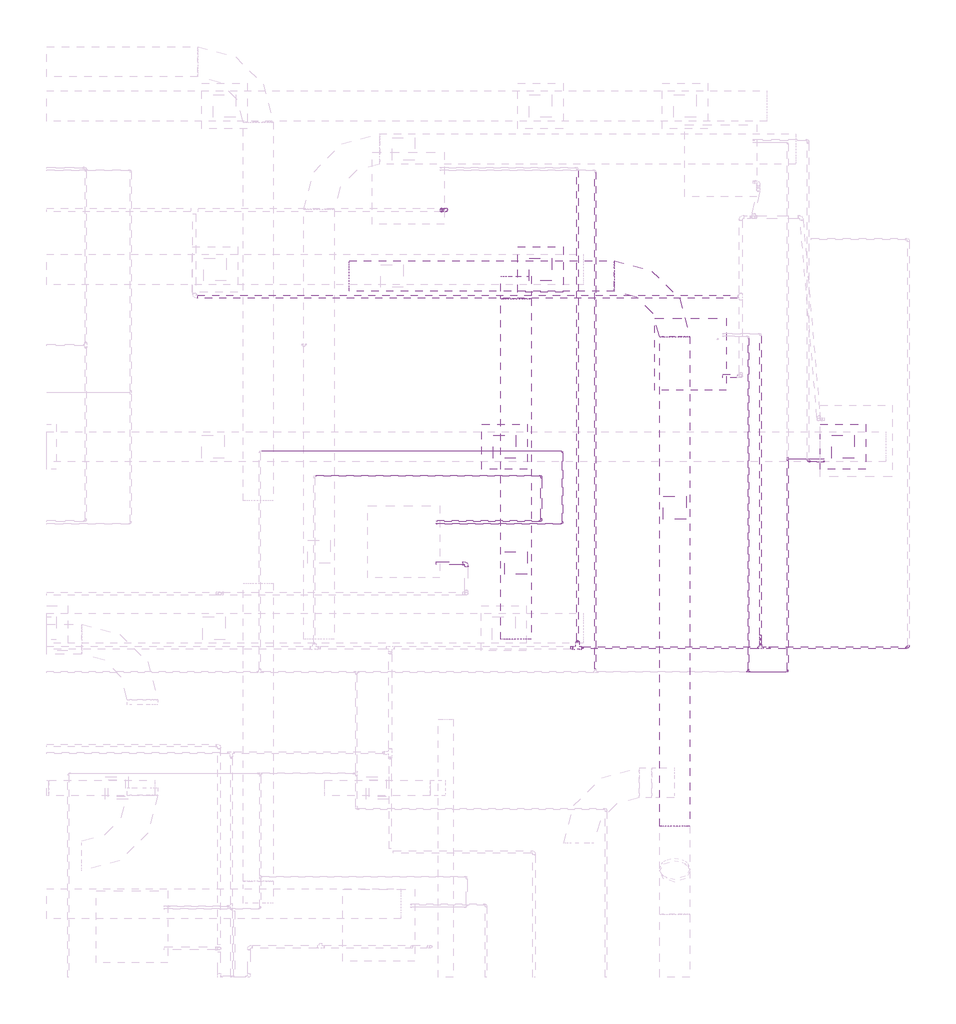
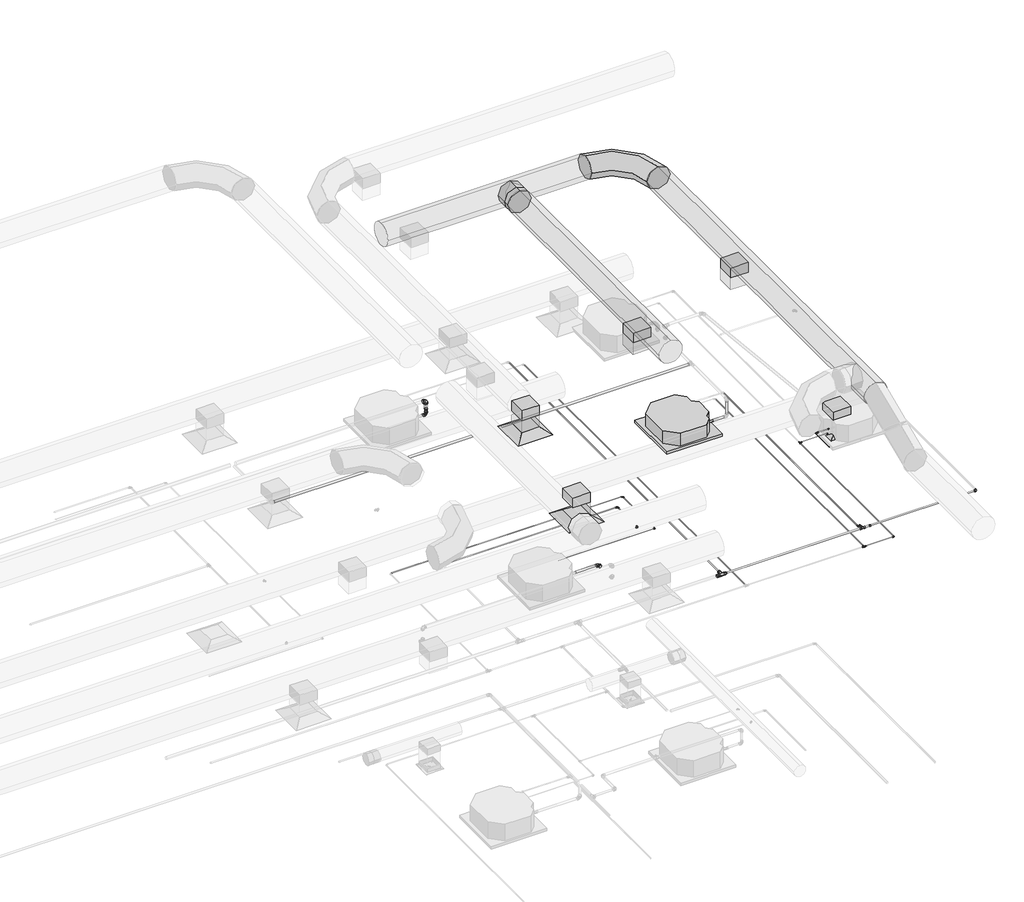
# One storey, part 20 of 21: 28 pipe fittings, 25 pipe segments, 8 duct segments, 7 duct fittings, 3 air terminals, 1 proxy.
"""IFC4 building model written with IfcOpenShell, lengths in millimetres."""

from ifc_helpers import new_model, si_unit, point, frame, frame_2d, origin, place, context, project, spatial, polyline, circle_curve, trimmed, segment, composite_curve, outline, extrude, transform, mapped, element, save
from components import air_terminal_ff221211, mechanical_equipment_77aa587a, duct_fitting_f399081e, duct_fitting_95c1ddea, duct_fitting_2_d_33ab650d, pipe_fitting_144f4440, pipe_fitting_1f557113, pipe_fitting_c8e70db0, pipe_fitting_182e23ec, pipe_fitting_39558790, pipe_fitting_5aefb692, pipe_fitting_2b321e5a, pipe_fitting_c3679463, pipe_fitting_ab0eaa7c, pipe_fitting_03ed5a55, pipe_fitting_c78fd4b3, pipe_fitting_c900cfc2, pipe_fitting_16c020f5, pipe_fitting_a9265b51, pipe_fitting_59d1f3e3, pipe_fitting_648138cd, pipe_fitting_725bd888, pipe_fitting_f1a24d16, pipe_fitting_ae0032d9, pipe_fitting_da16c1b3, pipe_fitting_3474c4ef, pipe_fitting_5a6d96d3

model = new_model("IFC4")

# Units and contexts
model_context = context("Model", 3, world=origin())
ifc_project = project(units=[si_unit("LENGTHUNIT", "METRE", prefix="MILLI")], contexts=[model_context])

# Site, building, storey
site = spatial("IfcSite", under=ifc_project)
building = spatial("IfcBuilding", under=site)
storey = spatial("IfcBuildingStorey", under=building, Name="Nível 1", Elevation=0.0)

# Air terminals
placement = place(None, origin())
air_terminal_shape = air_terminal_ff221211(model_context)
element("IfcAirTerminal", 1, ObjectType="M_Difusor de fornecimento : 600 x 600 Face 300 x 300 Conexão", at=placement, inside=storey, context=model_context, shape_type="MappedRepresentation", body=[
    mapped(air_terminal_shape, transform((25467.8168066, 4681.9327662, 3000.0), x_axis=(0.0, -1.0, 0.0), y_axis=(1.0, 0.0, 0.0), z_axis=(0.0, 0.0, 1.0))),
])
element("IfcAirTerminal", 2, ObjectType="M_Difusor de fornecimento : 600 x 600 Face 300 x 300 Conexão", at=placement, inside=storey, context=model_context, shape_type="MappedRepresentation", body=[
    mapped(air_terminal_shape, transform((25939.8406645, 7022.5342821, 3000.0), x_axis=(0.0, -1.0, 0.0), y_axis=(1.0, 0.0, 0.0), z_axis=(0.0, 0.0, 1.0))),
])
element("IfcAirTerminal", 3, ObjectType="M_Difusor de fornecimento : 600 x 600 Face 300 x 300 Conexão", at=placement, inside=storey, context=model_context, shape_type="MappedRepresentation", body=[
    mapped(air_terminal_shape, transform((29937.8773302, 4681.9327662, 3000.0), x_axis=(0.0, -1.0, 0.0), y_axis=(1.0, 0.0, 0.0), z_axis=(0.0, 0.0, 1.0))),
])

# Proxy
mechanical_equipment_shape = mechanical_equipment_77aa587a(model_context)
element("IfcBuildingElementProxy", 4, Name="Midea_VRF_Indoor_4-way Cassette_MI-56(71,80)Q4_DHN1-D (2nd DC) : MI2-71Q4DHN1", ObjectType="Midea_VRF_Indoor_4-way Cassette_MI-56(71,80)Q4_DHN1-D (2nd DC) : MI2-71Q4DHN1", at=placement, inside=storey, context=model_context, shape_type="MappedRepresentation", body=[
    mapped(mechanical_equipment_shape, transform((27924.1842864, 5901.8040024, 3000.0), x_axis=(1.0, 0.0, 0.0), y_axis=(0.0, 1.0, 0.0), z_axis=(0.0, 0.0, 1.0))),
])

# Duct fittings
duct_fitting_shape = duct_fitting_f399081e(model_context)
element("IfcDuctFitting", 5, ObjectType="M_Encaixe de duto redondo : Padrão", at=placement, inside=storey, context=model_context, shape_type="MappedRepresentation", body=[
    mapped(duct_fitting_shape, transform((25616.9358971, 6737.3539749, 7501.0), x_axis=(0.0, -1.0, 0.0), y_axis=(-1.0, 0.0, 0.0), z_axis=(0.0, 0.0, -1.0))),
])
duct_fitting_2_shape = duct_fitting_95c1ddea(model_context)
element("IfcDuctFitting", 6, ObjectType="M_Encaixe de duto retangular : Padrão", at=placement, inside=storey, context=model_context, shape_type="MappedRepresentation", body=[
    mapped(duct_fitting_2_shape, transform((25467.8168066, 4681.9327662, 3421.0), x_axis=(0.0, 0.0, -1.0), y_axis=(-1.0, 0.0, 0.0), z_axis=(0.0, 1.0, 0.0))),
])
element("IfcDuctFitting", 7, ObjectType="M_Encaixe de duto retangular : Padrão", at=placement, inside=storey, context=model_context, shape_type="MappedRepresentation", body=[
    mapped(duct_fitting_2_shape, transform((25939.8406645, 7022.5342821, 3421.0), x_axis=(0.0, 0.0, -1.0), y_axis=(-1.0, 0.0, 0.0), z_axis=(0.0, 1.0, 0.0))),
])
element("IfcDuctFitting", 8, ObjectType="M_Encaixe de duto retangular : Padrão", at=placement, inside=storey, context=model_context, shape_type="MappedRepresentation", body=[
    mapped(duct_fitting_2_shape, transform((27714.7064473, 3874.8993981, 7301.0), x_axis=(0.0, 0.0, -1.0), y_axis=(0.0, 1.0, 0.0), z_axis=(1.0, 0.0, 0.0))),
])
element("IfcDuctFitting", 9, ObjectType="M_Encaixe de duto retangular : Padrão", at=placement, inside=storey, context=model_context, shape_type="MappedRepresentation", body=[
    mapped(duct_fitting_2_shape, transform((25616.9358971, 3144.7054459, 7301.0), x_axis=(0.0, 0.0, -1.0), y_axis=(0.0, 1.0, 0.0), z_axis=(1.0, 0.0, 0.0))),
])
element("IfcDuctFitting", 10, ObjectType="M_Encaixe de duto retangular : Padrão", at=placement, inside=storey, context=model_context, shape_type="MappedRepresentation", body=[
    mapped(duct_fitting_2_shape, transform((29937.8773302, 4681.9327662, 3421.0), x_axis=(0.0, 0.0, -1.0), y_axis=(-1.0, 0.0, 0.0), z_axis=(0.0, 1.0, 0.0))),
])
duct_fitting_2_d_shape = duct_fitting_2_d_33ab650d(model_context)
element("IfcDuctFitting", 11, ObjectType="M_Cotovelo redondo : 2 D", at=placement, inside=storey, context=model_context, shape_type="MappedRepresentation", body=[
    mapped(duct_fitting_2_d_shape, transform((27714.7064473, 6937.3539749, 7501.0), x_axis=(0.0, 1.0, 0.0), y_axis=(-1.0, 0.0, 0.0), z_axis=(0.0, 0.0, 1.0))),
])

# Duct segments
element("IfcDuctSegment", 12, ObjectType="Raios cotovelos / torneiras", at=placement, inside=storey, context=model_context, shape_type="SweptSolid", body=[
    extrude(outline(polyline([(25617.8168066, 4531.9327662), (25317.8168066, 4531.9327662), (25317.8168066, 4831.9327662), (25617.8168066, 4831.9327662), (25617.8168066, 4531.9327662)])), frame((0.0, 0.0, 3101.6), z_axis=(0.0, 0.0, 1.0), x_axis=(1.0, 0.0, 0.0)), (0.0, 0.0, 1.0), 217.8),
])
element("IfcDuctSegment", 13, ObjectType="Raios cotovelos / torneiras", at=placement, inside=storey, context=model_context, shape_type="SweptSolid", body=[
    extrude(outline(polyline([(26089.8406645, 6872.5342821), (25789.8406645, 6872.5342821), (25789.8406645, 7172.5342821), (26089.8406645, 7172.5342821), (26089.8406645, 6872.5342821)])), frame((0.0, 0.0, 3101.6), z_axis=(0.0, 0.0, 1.0), x_axis=(1.0, 0.0, 0.0)), (0.0, 0.0, 1.0), 217.8),
])
element("IfcDuctSegment", 14, ObjectType="Torneiras / Raio curto", at=placement, inside=storey, context=model_context, shape_type="SweptSolid", body=[
    extrude(outline(composite_curve([segment(trimmed(circle_curve(frame_2d((6937.3539749, 7501.0)), 200.0), [point((7137.3539749, 7501.0))], [point((6937.3539749, 7301.0))], False, "CARTESIAN"), True, "CONTINUOUS"), segment(trimmed(circle_curve(frame_2d((6937.3539749, 7501.0)), 200.0), [point((6937.3539749, 7301.0))], [point((6737.3539749, 7501.0))], False, "CARTESIAN"), True, "CONTINUOUS"), segment(trimmed(circle_curve(frame_2d((6937.3539749, 7501.0)), 200.0), [point((6737.3539749, 7501.0))], [point((6937.3539749, 7701.0))], False, "CARTESIAN"), True, "CONTINUOUS"), segment(trimmed(circle_curve(frame_2d((6937.3539749, 7501.0)), 200.0), [point((6937.3539749, 7701.0))], [point((7137.3539749, 7501.0))], False, "CARTESIAN"), True, "CONTINUOUS")], self_intersect=False)), frame((23414.7064473, 0.0, 0.0), z_axis=(1.0, 0.0, 0.0), x_axis=(0.0, 1.0, 0.0)), (0.0, 0.0, 1.0), 3500.0),
])
element("IfcDuctSegment", 15, ObjectType="Torneiras / Raio curto", at=placement, inside=storey, context=model_context, shape_type="SweptSolid", body=[
    extrude(outline(composite_curve([segment(trimmed(circle_curve(frame_2d((7501.0, 27714.7064473)), 200.0), [point((7501.0, 27514.7064473))], [point((7301.0, 27714.7064473))], False, "CARTESIAN"), True, "CONTINUOUS"), segment(trimmed(circle_curve(frame_2d((7501.0, 27714.7064473)), 200.0), [point((7301.0, 27714.7064473))], [point((7501.0, 27914.7064473))], False, "CARTESIAN"), True, "CONTINUOUS"), segment(trimmed(circle_curve(frame_2d((7501.0, 27714.7064473)), 200.0), [point((7501.0, 27914.7064473))], [point((7701.0, 27714.7064473))], False, "CARTESIAN"), True, "CONTINUOUS"), segment(trimmed(circle_curve(frame_2d((7501.0, 27714.7064473)), 200.0), [point((7701.0, 27714.7064473))], [point((7501.0, 27514.7064473))], False, "CARTESIAN"), True, "CONTINUOUS")], self_intersect=False)), frame((0.0, -331.2751752, 0.0), z_axis=(0.0, 1.0, 0.0), x_axis=(0.0, 0.0, 1.0)), (0.0, 0.0, 1.0), 6468.6291501),
])
element("IfcDuctSegment", 16, ObjectType="Raios cotovelos / torneiras", at=placement, inside=storey, context=model_context, shape_type="SweptSolid", body=[
    extrude(outline(polyline([(27564.7064473, 3724.8993981), (27564.7064473, 4024.8993981), (27864.7064473, 4024.8993981), (27864.7064473, 3724.8993981), (27564.7064473, 3724.8993981)])), frame((0.0, 0.0, 6981.6), z_axis=(0.0, 0.0, 1.0), x_axis=(1.0, 0.0, 0.0)), (0.0, 0.0, 1.0), 217.8),
])
element("IfcDuctSegment", 17, ObjectType="Torneiras / Raio curto", at=placement, inside=storey, context=model_context, shape_type="SweptSolid", body=[
    extrude(outline(composite_curve([segment(trimmed(circle_curve(frame_2d((7501.0, 25616.9358971)), 200.0), [point((7501.0, 25416.9358971))], [point((7301.0, 25616.9358971))], False, "CARTESIAN"), True, "CONTINUOUS"), segment(trimmed(circle_curve(frame_2d((7501.0, 25616.9358971)), 200.0), [point((7301.0, 25616.9358971))], [point((7501.0, 25816.9358971))], False, "CARTESIAN"), True, "CONTINUOUS"), segment(trimmed(circle_curve(frame_2d((7501.0, 25616.9358971)), 200.0), [point((7501.0, 25816.9358971))], [point((7701.0, 25616.9358971))], False, "CARTESIAN"), True, "CONTINUOUS"), segment(trimmed(circle_curve(frame_2d((7501.0, 25616.9358971)), 200.0), [point((7701.0, 25616.9358971))], [point((7501.0, 25416.9358971))], False, "CARTESIAN"), True, "CONTINUOUS")], self_intersect=False)), frame((0.0, 2137.3539749, 0.0), z_axis=(0.0, 1.0, 0.0), x_axis=(0.0, 0.0, 1.0)), (0.0, 0.0, 1.0), 4498.4),
])
element("IfcDuctSegment", 18, ObjectType="Raios cotovelos / torneiras", at=placement, inside=storey, context=model_context, shape_type="SweptSolid", body=[
    extrude(outline(polyline([(25466.9358971, 2994.7054459), (25466.9358971, 3294.7054459), (25766.9358971, 3294.7054459), (25766.9358971, 2994.7054459), (25466.9358971, 2994.7054459)])), frame((0.0, 0.0, 6981.6), z_axis=(0.0, 0.0, 1.0), x_axis=(1.0, 0.0, 0.0)), (0.0, 0.0, 1.0), 217.8),
])
element("IfcDuctSegment", 19, ObjectType="Raios cotovelos / torneiras", at=placement, inside=storey, context=model_context, shape_type="SweptSolid", body=[
    extrude(outline(polyline([(30087.8773302, 4531.9327662), (29787.8773302, 4531.9327662), (29787.8773302, 4831.9327662), (30087.8773302, 4831.9327662), (30087.8773302, 4531.9327662)])), frame((0.0, 0.0, 3101.6), z_axis=(0.0, 0.0, 1.0), x_axis=(1.0, 0.0, 0.0)), (0.0, 0.0, 1.0), 217.8),
])

# Pipe fittings
pipe_fitting_shape = pipe_fitting_144f4440(model_context)
element("IfcPipeFitting", 20, ObjectType="Cotovelo - PVC - CW : Padrão", at=placement, inside=storey, context=model_context, shape_type="MappedRepresentation", body=[
    mapped(pipe_fitting_shape, transform((24961.4781645, 3141.4200133, 3252.3), x_axis=(0.0, 1.0, 0.0), y_axis=(-1.0, 0.0, 0.0), z_axis=(0.0, 0.0, 1.0))),
])
element("IfcPipeFitting", 21, ObjectType="Cotovelo - PVC - CW : Padrão", at=placement, inside=storey, context=model_context, shape_type="MappedRepresentation", body=[
    mapped(pipe_fitting_shape, transform((24687.195154, 7810.8048285, 3252.3085101), x_axis=(1.0, 0.0, 0.0), y_axis=(0.0, 0.0, 1.0), z_axis=(0.0, -1.0, 0.0))),
])
pipe_fitting_2_shape = pipe_fitting_1f557113(model_context)
element("IfcPipeFitting", 22, ObjectType="Redutor de acoplamento - PVC - CW : Padrão", at=placement, inside=storey, context=model_context, shape_type="MappedRepresentation", body=[
    mapped(pipe_fitting_2_shape, transform((24687.195154, 7810.8048285, 3297.3085101), x_axis=(0.0, 0.0, 1.0), y_axis=(0.0, -1.0, 0.0), z_axis=(1.0, 0.0, 0.0))),
])
pipe_fitting_3_shape = pipe_fitting_c8e70db0(model_context)
element("IfcPipeFitting", 23, ObjectType="Cotovelo - PVC - CW : Padrão", at=placement, inside=storey, context=model_context, shape_type="MappedRepresentation", body=[
    mapped(pipe_fitting_3_shape, transform((24687.195154, 7810.8048285, 3500.0), x_axis=(0.0, 0.0, 1.0), y_axis=(-1.0, 0.0, 0.0), z_axis=(0.0, -1.0, 0.0))),
])
pipe_fitting_4_shape = pipe_fitting_182e23ec(model_context)
element("IfcPipeFitting", 24, ObjectType="Bucha de redução reta - Soldada - CU : Padrão", at=placement, inside=storey, context=model_context, shape_type="MappedRepresentation", body=[
    mapped(pipe_fitting_4_shape, transform((28849.1842864, 2067.1185839, 3237.2572159), x_axis=(0.0, 1.0, 0.0), y_axis=(-1.0, 0.0, 0.0), z_axis=(0.0, 0.0, 1.0))),
])
pipe_fitting_5_shape = pipe_fitting_39558790(model_context)
element("IfcPipeFitting", 25, ObjectType="Bucha de redução reta - Soldada - CU : Padrão", at=placement, inside=storey, context=model_context, shape_type="MappedRepresentation", body=[
    mapped(pipe_fitting_5_shape, transform((28967.1842643, 2025.308811, 3237.1850246), x_axis=(0.9999998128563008, 0.0, -0.0006117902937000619), y_axis=(0.0, 1.0, 0.0), z_axis=(0.0006117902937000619, 0.0, 0.9999998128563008))),
])
pipe_fitting_6_shape = pipe_fitting_5aefb692(model_context)
element("IfcPipeFitting", 26, ObjectType="Cotovelo - Soldado - CU : Padrão", at=placement, inside=storey, context=model_context, shape_type="MappedRepresentation", body=[
    mapped(pipe_fitting_6_shape, transform((30802.8273208, 2025.308811, 3236.0619958), x_axis=(0.9999998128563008, 0.0, -0.000611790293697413), y_axis=(0.0, 1.0, 0.0), z_axis=(0.000611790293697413, 0.0, 0.9999998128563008))),
])
pipe_fitting_7_shape = pipe_fitting_2b321e5a(model_context)
element("IfcPipeFitting", 27, ObjectType="Bucha de redução reta - Soldada - CU : Padrão", at=placement, inside=storey, context=model_context, shape_type="MappedRepresentation", body=[
    mapped(pipe_fitting_7_shape, transform((29230.279948, 4519.1293689, 3146.8021436), x_axis=(0.999999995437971, 0.0, 9.551993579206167e-05), y_axis=(0.0, 1.0000000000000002, 0.0), z_axis=(-9.551993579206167e-05, 0.0, 0.999999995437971))),
])
pipe_fitting_8_shape = pipe_fitting_c3679463(model_context)
element("IfcPipeFitting", 28, ObjectType="Bucha de redução reta - Soldada - CU : Padrão", at=placement, inside=storey, context=model_context, shape_type="MappedRepresentation", body=[
    mapped(pipe_fitting_8_shape, transform((26429.4543066, 2107.4386192, 3238.9150551), x_axis=(0.0, 0.9999976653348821, 0.002160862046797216), y_axis=(-0.9999998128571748, -1.3219913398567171e-06, 0.0006117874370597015), z_axis=(0.0006117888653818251, -0.0021608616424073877, 0.9999974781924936))),
])
pipe_fitting_9_shape = pipe_fitting_ab0eaa7c(model_context)
element("IfcPipeFitting", 29, ObjectType="Tê - Soldado - CU : Padrão", at=placement, inside=storey, context=model_context, shape_type="MappedRepresentation", body=[
    mapped(pipe_fitting_9_shape, transform((26429.4543066, 2025.308811, 3238.7375835), x_axis=(-0.9999998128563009, 0.0, 0.0006117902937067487), y_axis=(-1.3219941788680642e-06, -0.9999976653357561, -0.0021608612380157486), z_axis=(0.000611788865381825, -0.0021608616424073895, 0.9999974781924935))),
])
pipe_fitting_10_shape = pipe_fitting_03ed5a55(model_context)
element("IfcPipeFitting", 30, ObjectType="Bucha de redução reta - Soldada - CU : Padrão", at=placement, inside=storey, context=model_context, shape_type="MappedRepresentation", body=[
    mapped(pipe_fitting_10_shape, transform((26370.5118177, 2025.308811, 3238.7736439), x_axis=(-0.9999998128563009, 0.0, 0.0006117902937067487), y_axis=(-1.3219941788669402e-06, -0.9999976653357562, -0.0021608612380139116), z_axis=(0.0006117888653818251, -0.0021608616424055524, 0.9999974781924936))),
])
pipe_fitting_11_shape = pipe_fitting_c78fd4b3(model_context)
element("IfcPipeFitting", 31, ObjectType="Bucha de redução reta - Soldada - CU : Padrão", at=placement, inside=storey, context=model_context, shape_type="MappedRepresentation", body=[
    mapped(pipe_fitting_11_shape, transform((26488.3967956, 2025.308811, 3238.701523), x_axis=(0.9999998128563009, 0.0, -0.0006117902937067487), y_axis=(1.3219941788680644e-06, 0.9999976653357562, 0.002160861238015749), z_axis=(0.0006117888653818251, -0.00216086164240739, 0.9999974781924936))),
])
pipe_fitting_12_shape = pipe_fitting_c900cfc2(model_context)
element("IfcPipeFitting", 32, ObjectType="Bucha de redução reta - Soldada - CU : Padrão", at=placement, inside=storey, context=model_context, shape_type="MappedRepresentation", body=[
    mapped(pipe_fitting_12_shape, transform((29689.7064473, 4485.3269271, 3252.3085101), x_axis=(-1.0, 0.0, 0.0), y_axis=(0.0, -1.0, 0.0), z_axis=(0.0, 0.0, 1.0))),
])
pipe_fitting_13_shape = pipe_fitting_16c020f5(model_context)
element("IfcPipeFitting", 33, ObjectType="Cotovelo - Soldado - CU : Padrão", at=placement, inside=storey, context=model_context, shape_type="MappedRepresentation", body=[
    mapped(pipe_fitting_13_shape, transform((25952.4995645, 3699.630827, 3252.3085101), x_axis=(1.0, 0.0, 0.0), y_axis=(0.0, 0.9999999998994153, -1.4183422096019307e-05), z_axis=(0.0, 1.4183422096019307e-05, 0.9999999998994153))),
])
element("IfcPipeFitting", 34, ObjectType="Cotovelo - Soldado - CU : Padrão", at=placement, inside=storey, context=model_context, shape_type="MappedRepresentation", body=[
    mapped(pipe_fitting_13_shape, transform((25952.4995645, 4299.630827, 3252.3), x_axis=(0.0, 0.9999999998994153, -1.4183422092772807e-05), y_axis=(-1.0000000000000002, 0.0, 0.0), z_axis=(0.0, 1.4183422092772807e-05, 0.9999999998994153))),
])
element("IfcPipeFitting", 35, ObjectType="Cotovelo - Soldado - CU : Padrão", at=placement, inside=storey, context=model_context, shape_type="MappedRepresentation", body=[
    mapped(pipe_fitting_13_shape, transform((29476.6422474, 4485.3269271, 3252.3025747), x_axis=(0.0, -0.9999999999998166, 6.057547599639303e-07), y_axis=(0.99999999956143, 1.7940368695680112e-11, 2.9616554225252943e-05), z_axis=(-2.9616554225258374e-05, 6.057547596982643e-07, 0.9999999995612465))),
])
pipe_fitting_14_shape = pipe_fitting_a9265b51(model_context)
element("IfcPipeFitting", 36, ObjectType="Cotovelo - Soldado - CU : Padrão", at=placement, inside=storey, context=model_context, shape_type="MappedRepresentation", body=[
    mapped(pipe_fitting_14_shape, transform((28849.1842864, 2108.7560839, 3237.2572159), x_axis=(0.0, 1.0, 0.0), y_axis=(0.0, 0.0, -1.0), z_axis=(-1.0, 0.0, 0.0))),
])
element("IfcPipeFitting", 37, ObjectType="Cotovelo - Soldado - CU : Padrão", at=placement, inside=storey, context=model_context, shape_type="MappedRepresentation", body=[
    mapped(pipe_fitting_14_shape, transform((28849.1842864, 2163.7132857, 3182.300014), x_axis=(0.0, 0.7071067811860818, -0.7071067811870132), y_axis=(0.0, 0.7071067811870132, 0.7071067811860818), z_axis=(1.0, 0.0, 0.0))),
])
pipe_fitting_15_shape = pipe_fitting_59d1f3e3(model_context)
element("IfcPipeFitting", 38, ObjectType="Bucha de redução reta - Soldada - CU : Padrão", at=placement, inside=storey, context=model_context, shape_type="MappedRepresentation", body=[
    mapped(pipe_fitting_15_shape, transform((24561.4781645, 3665.8283851, 3146.8361387), x_axis=(1.0, 0.0, 0.0), y_axis=(0.0, 1.0, 0.0), z_axis=(0.0, 0.0, 1.0))),
])
pipe_fitting_16_shape = pipe_fitting_648138cd(model_context)
element("IfcPipeFitting", 39, ObjectType="Cotovelo - Soldado - CU : Padrão", at=placement, inside=storey, context=model_context, shape_type="MappedRepresentation", body=[
    mapped(pipe_fitting_16_shape, transform((26231.1525645, 3665.8283851, 3146.8012049), x_axis=(0.9999999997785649, 0.0, -2.104448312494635e-05), y_axis=(-2.6412025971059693e-11, 0.9999999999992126, -1.2550570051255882e-06), z_axis=(2.104448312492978e-05, 1.2550570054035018e-06, 0.9999999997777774))),
])
element("IfcPipeFitting", 40, ObjectType="Cotovelo - Soldado - CU : Padrão", at=placement, inside=storey, context=model_context, shape_type="MappedRepresentation", body=[
    mapped(pipe_fitting_16_shape, transform((26231.1525645, 4625.8283851, 3146.8), x_axis=(0.0, 0.9999999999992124, -1.2550570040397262e-06), y_axis=(-1.0, 0.0, 0.0), z_axis=(0.0, 1.2550570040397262e-06, 0.9999999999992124))),
])
element("IfcPipeFitting", 41, ObjectType="Cotovelo - Soldado - CU : Padrão", at=placement, inside=storey, context=model_context, shape_type="MappedRepresentation", body=[
    mapped(pipe_fitting_16_shape, transform((29207.8387481, 1706.2287572, 3146.8), x_axis=(1.0, 0.0, 0.0), y_axis=(0.0, 1.0, 0.0), z_axis=(0.0, 0.0, 1.0))),
])
pipe_fitting_17_shape = pipe_fitting_725bd888(model_context)
element("IfcPipeFitting", 42, ObjectType="Tê - Soldado - CU : Padrão", at=placement, inside=storey, context=model_context, shape_type="MappedRepresentation", body=[
    mapped(pipe_fitting_17_shape, transform((29207.8387481, 4519.1293689, 3146.8), x_axis=(0.0, -1.0, 0.0), y_axis=(-0.999999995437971, 0.0, -9.551993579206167e-05), z_axis=(9.551993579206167e-05, 0.0, -0.999999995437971))),
])
pipe_fitting_18_shape = pipe_fitting_f1a24d16(model_context)
element("IfcPipeFitting", 43, ObjectType="Bucha de redução reta - Soldada - CU : Padrão", at=placement, inside=storey, context=model_context, shape_type="MappedRepresentation", body=[
    mapped(pipe_fitting_18_shape, transform((29680.0273473, 4519.1293689, 3146.8437342), x_axis=(0.9999999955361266, 0.0, 9.448675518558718e-05), y_axis=(0.0, 1.0000000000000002, 0.0), z_axis=(-9.448675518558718e-05, 0.0, 0.9999999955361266))),
])
pipe_fitting_19_shape = pipe_fitting_ae0032d9(model_context)
element("IfcPipeFitting", 44, ObjectType="Tê - Soldado - CU : Padrão", at=placement, inside=storey, context=model_context, shape_type="MappedRepresentation", body=[
    mapped(pipe_fitting_19_shape, transform((28849.1842864, 2025.308811, 3237.2572159), x_axis=(-0.9999998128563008, 0.0, 0.0006117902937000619), y_axis=(0.0, -1.0, 0.0), z_axis=(0.0006117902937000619, 0.0, 0.9999998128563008))),
])
pipe_fitting_20_shape = pipe_fitting_da16c1b3(model_context)
element("IfcPipeFitting", 45, ObjectType="Tê - Soldado - CU : Padrão", at=placement, inside=storey, context=model_context, shape_type="MappedRepresentation", body=[
    mapped(pipe_fitting_20_shape, transform((28689.1842835, 1706.2287572, 3146.8), x_axis=(-1.0, 0.0, 0.0), y_axis=(0.0, -1.0, 0.0), z_axis=(0.0, 0.0, 1.0))),
])
pipe_fitting_21_shape = pipe_fitting_3474c4ef(model_context)
element("IfcPipeFitting", 46, ObjectType="Bucha de redução reta - Soldada - CU : Padrão", at=placement, inside=storey, context=model_context, shape_type="MappedRepresentation", body=[
    mapped(pipe_fitting_21_shape, transform((28689.1842835, 1731.2457572, 3146.8), x_axis=(0.0, 1.0, 0.0), y_axis=(-1.0, 0.0, 0.0), z_axis=(0.0, 0.0, 1.0))),
])
pipe_fitting_22_shape = pipe_fitting_5a6d96d3(model_context)
element("IfcPipeFitting", 47, ObjectType="Bucha de redução reta - Soldada - CU : Padrão", at=placement, inside=storey, context=model_context, shape_type="MappedRepresentation", body=[
    mapped(pipe_fitting_22_shape, transform((28714.2677835, 1706.2287572, 3146.8), x_axis=(1.0, 0.0, 0.0), y_axis=(0.0, 1.0, 0.0), z_axis=(0.0, 0.0, 1.0))),
])

# Pipe segments
element("IfcPipeSegment", 48, ObjectType="Tubos de cobre HVAC", at=placement, inside=storey, context=model_context, shape_type="SweptSolid", body=[
    extrude(outline(composite_curve([segment(trimmed(circle_curve(frame_2d((3699.630827, 3252.3085101)), 7.935), [point((3691.695827, 3252.3085101))], [point((3699.630827, 3260.2435101))], False, "CARTESIAN"), True, "CONTINUOUS"), segment(trimmed(circle_curve(frame_2d((3699.630827, 3252.3085101)), 7.935), [point((3699.630827, 3260.2435101))], [point((3707.565827, 3252.3085101))], False, "CARTESIAN"), True, "CONTINUOUS"), segment(trimmed(circle_curve(frame_2d((3699.630827, 3252.3085101)), 7.935), [point((3707.565827, 3252.3085101))], [point((3699.630827, 3244.3735101))], False, "CARTESIAN"), True, "CONTINUOUS"), segment(trimmed(circle_curve(frame_2d((3699.630827, 3252.3085101)), 7.935), [point((3699.630827, 3244.3735101))], [point((3691.695827, 3252.3085101))], False, "CARTESIAN"), True, "CONTINUOUS")], self_intersect=False)), frame((24574.1370645, 0.0, 0.0), z_axis=(1.0, 0.0, 0.0), x_axis=(0.0, 1.0, 0.0)), (0.0, 0.0, 1.0), 1349.3839),
])
element("IfcPipeSegment", 49, ObjectType="Tubos de cobre HVAC", at=placement, inside=storey, context=model_context, shape_type="SweptSolid", body=[
    extrude(outline(composite_curve([segment(trimmed(circle_curve(frame_2d((0.0, -4.76)), 4.76), [point((-4.76, -4.76))], [point((0.0, 0.0))], False, "CARTESIAN"), True, "CONTINUOUS"), segment(trimmed(circle_curve(frame_2d((0.0, -4.76)), 4.76), [point((0.0, 0.0))], [point((4.76, -4.76))], False, "CARTESIAN"), True, "CONTINUOUS"), segment(trimmed(circle_curve(frame_2d((0.0, -4.76)), 4.76), [point((4.76, -4.76))], [point((0.0, -9.52))], False, "CARTESIAN"), True, "CONTINUOUS"), segment(trimmed(circle_curve(frame_2d((0.0, -4.76)), 4.76), [point((0.0, -9.52))], [point((-4.76, -4.76))], False, "CARTESIAN"), True, "CONTINUOUS")], self_intersect=False)), frame((26207.1268643, 3665.8283851, 3142.0417105), z_axis=(-0.9999999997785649, 0.0, 2.1044483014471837e-05), x_axis=(0.0, 1.0, 0.0)), (0.0, 0.0, 1.0), 1635.9744004),
])
element("IfcPipeSegment", 50, ObjectType="Plástico", at=placement, inside=storey, context=model_context, shape_type="SweptSolid", body=[
    extrude(outline(composite_curve([segment(trimmed(circle_curve(frame_2d((3141.4200133, 3252.3)), 20.0), [point((3121.4200133, 3252.3))], [point((3141.4200133, 3272.3))], False, "CARTESIAN"), True, "CONTINUOUS"), segment(trimmed(circle_curve(frame_2d((3141.4200133, 3252.3)), 20.0), [point((3141.4200133, 3272.3))], [point((3161.4200133, 3252.3))], False, "CARTESIAN"), True, "CONTINUOUS"), segment(trimmed(circle_curve(frame_2d((3141.4200133, 3252.3)), 20.0), [point((3161.4200133, 3252.3))], [point((3141.4200133, 3232.3))], False, "CARTESIAN"), True, "CONTINUOUS"), segment(trimmed(circle_curve(frame_2d((3141.4200133, 3252.3)), 20.0), [point((3141.4200133, 3232.3))], [point((3121.4200133, 3252.3))], False, "CARTESIAN"), True, "CONTINUOUS")], self_intersect=False)), frame((24561.4781645, 0.0, 0.0), z_axis=(1.0, 0.0, 0.0), x_axis=(0.0, 1.0, 0.0)), (0.0, 0.0, 1.0), 355.0),
])
element("IfcPipeSegment", 51, ObjectType="Plástico", at=placement, inside=storey, context=model_context, shape_type="SweptSolid", body=[
    extrude(outline(composite_curve([segment(trimmed(circle_curve(frame_2d((7810.8048285, 3252.3085101)), 20.0), [point((7790.8048285, 3252.3085101))], [point((7810.8048285, 3272.3085101))], False, "CARTESIAN"), True, "CONTINUOUS"), segment(trimmed(circle_curve(frame_2d((7810.8048285, 3252.3085101)), 20.0), [point((7810.8048285, 3272.3085101))], [point((7830.8048285, 3252.3085101))], False, "CARTESIAN"), True, "CONTINUOUS"), segment(trimmed(circle_curve(frame_2d((7810.8048285, 3252.3085101)), 20.0), [point((7830.8048285, 3252.3085101))], [point((7810.8048285, 3232.3085101))], False, "CARTESIAN"), True, "CONTINUOUS"), segment(trimmed(circle_curve(frame_2d((7810.8048285, 3252.3085101)), 20.0), [point((7810.8048285, 3232.3085101))], [point((7790.8048285, 3252.3085101))], False, "CARTESIAN"), True, "CONTINUOUS")], self_intersect=False)), frame((24616.7954066, 0.0, 0.0), z_axis=(1.0, 0.0, 0.0), x_axis=(0.0, 1.0, 0.0)), (0.0, 0.0, 1.0), 25.3997474),
])
element("IfcPipeSegment", 52, ObjectType="Plástico", at=placement, inside=storey, context=model_context, shape_type="SweptSolid", body=[
    extrude(outline(composite_curve([segment(trimmed(circle_curve(frame_2d((24687.195154, 7810.8048285)), 25.0), [point((24662.195154, 7810.8048285))], [point((24687.195154, 7835.8048285))], False, "CARTESIAN"), True, "CONTINUOUS"), segment(trimmed(circle_curve(frame_2d((24687.195154, 7810.8048285)), 25.0), [point((24687.195154, 7835.8048285))], [point((24712.195154, 7810.8048285))], False, "CARTESIAN"), True, "CONTINUOUS"), segment(trimmed(circle_curve(frame_2d((24687.195154, 7810.8048285)), 25.0), [point((24712.195154, 7810.8048285))], [point((24687.195154, 7785.8048285))], False, "CARTESIAN"), True, "CONTINUOUS"), segment(trimmed(circle_curve(frame_2d((24687.195154, 7810.8048285)), 25.0), [point((24687.195154, 7785.8048285))], [point((24662.195154, 7810.8048285))], False, "CARTESIAN"), True, "CONTINUOUS")], self_intersect=False)), frame((0.0, 0.0, 3358.5085101), z_axis=(0.0, 0.0, 1.0), x_axis=(1.0, 0.0, 0.0)), (0.0, 0.0, 1.0), 87.4914899),
])
element("IfcPipeSegment", 53, ObjectType="Tubos de cobre HVAC", at=placement, inside=storey, context=model_context, shape_type="SweptSolid", body=[
    extrude(outline(composite_curve([segment(trimmed(circle_curve(frame_2d((1706.2287572, 3146.8)), 4.76), [point((1701.4687572, 3146.8))], [point((1706.2287572, 3151.56))], False, "CARTESIAN"), True, "CONTINUOUS"), segment(trimmed(circle_curve(frame_2d((1706.2287572, 3146.8)), 4.76), [point((1706.2287572, 3151.56))], [point((1710.9887572, 3146.8))], False, "CARTESIAN"), True, "CONTINUOUS"), segment(trimmed(circle_curve(frame_2d((1706.2287572, 3146.8)), 4.76), [point((1710.9887572, 3146.8))], [point((1706.2287572, 3142.04))], False, "CARTESIAN"), True, "CONTINUOUS"), segment(trimmed(circle_curve(frame_2d((1706.2287572, 3146.8)), 4.76), [point((1706.2287572, 3142.04))], [point((1701.4687572, 3146.8))], False, "CARTESIAN"), True, "CONTINUOUS")], self_intersect=False)), frame((28723.9421835, 0.0, 0.0), z_axis=(1.0, 0.0, 0.0), x_axis=(0.0, 1.0, 0.0)), (0.0, 0.0, 1.0), 459.8709646),
])
element("IfcPipeSegment", 54, ObjectType="Tubos de cobre HVAC", at=placement, inside=storey, context=model_context, shape_type="SweptSolid", body=[
    extrude(outline(composite_curve([segment(trimmed(circle_curve(frame_2d((0.0, -7.935)), 7.935), [point((0.0, -15.87))], [point((-7.935, -7.935))], False, "CARTESIAN"), True, "CONTINUOUS"), segment(trimmed(circle_curve(frame_2d((0.0, -7.935)), 7.935), [point((-7.935, -7.935))], [point((0.0, 0.0))], False, "CARTESIAN"), True, "CONTINUOUS"), segment(trimmed(circle_curve(frame_2d((0.0, -7.935)), 7.935), [point((0.0, 0.0))], [point((7.935, -7.935))], False, "CARTESIAN"), True, "CONTINUOUS"), segment(trimmed(circle_curve(frame_2d((0.0, -7.935)), 7.935), [point((7.935, -7.935))], [point((0.0, -15.87))], False, "CARTESIAN"), True, "CONTINUOUS")], self_intersect=False)), frame((25944.5645645, 4270.652227, 3252.300411), z_axis=(0.0, -0.9999999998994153, 1.4183422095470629e-05), x_axis=(0.0, 1.4183422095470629e-05, 0.9999999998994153)), (0.0, 0.0, 1.0), 542.0428001),
])
element("IfcPipeSegment", 55, ObjectType="Tubos de cobre HVAC", at=placement, inside=storey, context=model_context, shape_type="SweptSolid", body=[
    extrude(outline(composite_curve([segment(trimmed(circle_curve(frame_2d((4299.630827, 3252.3)), 7.935), [point((4307.565827, 3252.3))], [point((4299.630827, 3244.365))], False, "CARTESIAN"), True, "CONTINUOUS"), segment(trimmed(circle_curve(frame_2d((4299.630827, 3252.3)), 7.935), [point((4299.630827, 3244.365))], [point((4291.695827, 3252.3))], False, "CARTESIAN"), True, "CONTINUOUS"), segment(trimmed(circle_curve(frame_2d((4299.630827, 3252.3)), 7.935), [point((4291.695827, 3252.3))], [point((4299.630827, 3260.235))], False, "CARTESIAN"), True, "CONTINUOUS"), segment(trimmed(circle_curve(frame_2d((4299.630827, 3252.3)), 7.935), [point((4299.630827, 3260.235))], [point((4307.565827, 3252.3))], False, "CARTESIAN"), True, "CONTINUOUS")], self_intersect=False)), frame((22981.4781645, 0.0, 0.0), z_axis=(1.0, 0.0, 0.0), x_axis=(0.0, 1.0, 0.0)), (0.0, 0.0, 1.0), 2942.0428),
])
element("IfcPipeSegment", 56, ObjectType="Tubos de cobre HVAC", at=placement, inside=storey, context=model_context, shape_type="SweptSolid", body=[
    extrude(outline(composite_curve([segment(trimmed(circle_curve(frame_2d((3146.8011747, 26231.1525645)), 4.76), [point((3146.8011747, 26235.9125645))], [point((3151.5611747, 26231.1525645))], False, "CARTESIAN"), True, "CONTINUOUS"), segment(trimmed(circle_curve(frame_2d((3146.8011747, 26231.1525645)), 4.76), [point((3151.5611747, 26231.1525645))], [point((3146.8011747, 26226.3925645))], False, "CARTESIAN"), True, "CONTINUOUS"), segment(trimmed(circle_curve(frame_2d((3146.8011747, 26231.1525645)), 4.76), [point((3146.8011747, 26226.3925645))], [point((3142.0411747, 26231.1525645))], False, "CARTESIAN"), True, "CONTINUOUS"), segment(trimmed(circle_curve(frame_2d((3146.8011747, 26231.1525645)), 4.76), [point((3142.0411747, 26231.1525645))], [point((3146.8011747, 26235.9125645))], False, "CARTESIAN"), True, "CONTINUOUS")], self_intersect=False)), frame((0.0, 3689.8539851, 0.0), z_axis=(0.0, 1.0, 0.0), x_axis=(0.0, 0.0, 1.0)), (0.0, 0.0, 1.0), 911.9488),
])
element("IfcPipeSegment", 57, ObjectType="Tubos de cobre HVAC", at=placement, inside=storey, context=model_context, shape_type="SweptSolid", body=[
    extrude(outline(composite_curve([segment(trimmed(circle_curve(frame_2d((4625.8283851, 3146.8)), 4.76), [point((4630.5883851, 3146.8))], [point((4625.8283851, 3142.04))], False, "CARTESIAN"), True, "CONTINUOUS"), segment(trimmed(circle_curve(frame_2d((4625.8283851, 3146.8)), 4.76), [point((4625.8283851, 3142.04))], [point((4621.0683851, 3146.8))], False, "CARTESIAN"), True, "CONTINUOUS"), segment(trimmed(circle_curve(frame_2d((4625.8283851, 3146.8)), 4.76), [point((4621.0683851, 3146.8))], [point((4625.8283851, 3151.56))], False, "CARTESIAN"), True, "CONTINUOUS"), segment(trimmed(circle_curve(frame_2d((4625.8283851, 3146.8)), 4.76), [point((4625.8283851, 3151.56))], [point((4630.5883851, 3146.8))], False, "CARTESIAN"), True, "CONTINUOUS")], self_intersect=False)), frame((22255.1781645, 0.0, 0.0), z_axis=(1.0, 0.0, 0.0), x_axis=(0.0, 1.0, 0.0)), (0.0, 0.0, 1.0), 3951.9488),
])
element("IfcPipeSegment", 58, ObjectType="Tubos de cobre HVAC", at=placement, inside=storey, context=model_context, shape_type="SweptSolid", body=[
    extrude(outline(composite_curve([segment(trimmed(circle_curve(frame_2d((0.0, -7.935)), 7.935), [point((-7.935, -7.935))], [point((0.0, 0.0))], False, "CARTESIAN"), True, "CONTINUOUS"), segment(trimmed(circle_curve(frame_2d((0.0, -7.935)), 7.935), [point((0.0, 0.0))], [point((7.935, -7.935))], False, "CARTESIAN"), True, "CONTINUOUS"), segment(trimmed(circle_curve(frame_2d((0.0, -7.935)), 7.935), [point((7.935, -7.935))], [point((0.0, -15.87))], False, "CARTESIAN"), True, "CONTINUOUS"), segment(trimmed(circle_curve(frame_2d((0.0, -7.935)), 7.935), [point((0.0, -15.87))], [point((-7.935, -7.935))], False, "CARTESIAN"), True, "CONTINUOUS")], self_intersect=False)), frame((26429.4543066, 2120.1144614, 3231.0074273), z_axis=(0.0, 0.99999771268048, 0.002138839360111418), x_axis=(1.0, 0.0, 0.0)), (0.0, 0.0, 1.0), 6219.9538471),
])
element("IfcPipeSegment", 59, ObjectType="Tubos de cobre HVAC", at=placement, inside=storey, context=model_context, shape_type="SweptSolid", body=[
    extrude(outline(composite_curve([segment(trimmed(circle_curve(frame_2d((0.0, -4.76)), 4.76), [point((0.0, -9.52))], [point((-4.76, -4.76))], False, "CARTESIAN"), True, "CONTINUOUS"), segment(trimmed(circle_curve(frame_2d((0.0, -4.76)), 4.76), [point((-4.76, -4.76))], [point((0.0, 0.0))], False, "CARTESIAN"), True, "CONTINUOUS"), segment(trimmed(circle_curve(frame_2d((0.0, -4.76)), 4.76), [point((0.0, 0.0))], [point((4.76, -4.76))], False, "CARTESIAN"), True, "CONTINUOUS"), segment(trimmed(circle_curve(frame_2d((0.0, -4.76)), 4.76), [point((4.76, -4.76))], [point((0.0, -9.52))], False, "CARTESIAN"), True, "CONTINUOUS")], self_intersect=False)), frame((26661.7144981, 8310.8132003, 3146.6594094), z_axis=(0.0, -0.9999999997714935, 2.137786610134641e-05), x_axis=(0.0, 2.137786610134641e-05, 0.9999999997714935)), (0.0, 0.0, 1.0), 6564.5239446),
])
element("IfcPipeSegment", 60, ObjectType="Tubos de cobre HVAC", at=placement, inside=storey, context=model_context, shape_type="SweptSolid", body=[
    extrude(outline(composite_curve([segment(trimmed(circle_curve(frame_2d((3182.300014, 28849.1842864)), 7.935), [point((3182.300014, 28841.2492864))], [point((3174.365014, 28849.1842864))], False, "CARTESIAN"), True, "CONTINUOUS"), segment(trimmed(circle_curve(frame_2d((3182.300014, 28849.1842864)), 7.935), [point((3174.365014, 28849.1842864))], [point((3182.300014, 28857.1192864))], False, "CARTESIAN"), True, "CONTINUOUS"), segment(trimmed(circle_curve(frame_2d((3182.300014, 28849.1842864)), 7.935), [point((3182.300014, 28857.1192864))], [point((3190.235014, 28849.1842864))], False, "CARTESIAN"), True, "CONTINUOUS"), segment(trimmed(circle_curve(frame_2d((3182.300014, 28849.1842864)), 7.935), [point((3190.235014, 28849.1842864))], [point((3182.300014, 28841.2492864))], False, "CARTESIAN"), True, "CONTINUOUS")], self_intersect=False)), frame((0.0, 2192.6918857, 0.0), z_axis=(0.0, 1.0, 0.0), x_axis=(0.0, 0.0, 1.0)), (0.0, 0.0, 1.0), 3953.3443303),
])
element("IfcPipeSegment", 61, ObjectType="Tubos de cobre HVAC", at=placement, inside=storey, context=model_context, shape_type="SweptSolid", body=[
    extrude(outline(composite_curve([segment(trimmed(circle_curve(frame_2d((0.0, -14.0)), 14.0), [point((-14.0, -14.0))], [point((0.0, 0.0))], False, "CARTESIAN"), True, "CONTINUOUS"), segment(trimmed(circle_curve(frame_2d((0.0, -14.0)), 14.0), [point((0.0, 0.0))], [point((14.0, -14.0))], False, "CARTESIAN"), True, "CONTINUOUS"), segment(trimmed(circle_curve(frame_2d((0.0, -14.0)), 14.0), [point((14.0, -14.0))], [point((0.0, -28.0))], False, "CARTESIAN"), True, "CONTINUOUS"), segment(trimmed(circle_curve(frame_2d((0.0, -14.0)), 14.0), [point((0.0, -28.0))], [point((-14.0, -14.0))], False, "CARTESIAN"), True, "CONTINUOUS")], self_intersect=False)), frame((28967.1756992, 2025.308811, 3223.1850272), z_axis=(-0.9999998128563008, 0.0, 0.0006117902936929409), x_axis=(0.0, 1.0, 0.0)), (0.0, 0.0, 1.0), 80.0),
])
element("IfcPipeSegment", 62, ObjectType="Tubos de cobre HVAC", at=placement, inside=storey, context=model_context, shape_type="SweptSolid", body=[
    extrude(outline(composite_curve([segment(trimmed(circle_curve(frame_2d((3146.8, 28689.1842835)), 4.76), [point((3146.8, 28693.9442835))], [point((3151.56, 28689.1842835))], False, "CARTESIAN"), True, "CONTINUOUS"), segment(trimmed(circle_curve(frame_2d((3146.8, 28689.1842835)), 4.76), [point((3151.56, 28689.1842835))], [point((3146.8, 28684.4242835))], False, "CARTESIAN"), True, "CONTINUOUS"), segment(trimmed(circle_curve(frame_2d((3146.8, 28689.1842835)), 4.76), [point((3146.8, 28684.4242835))], [point((3142.04, 28689.1842835))], False, "CARTESIAN"), True, "CONTINUOUS"), segment(trimmed(circle_curve(frame_2d((3146.8, 28689.1842835)), 4.76), [point((3142.04, 28689.1842835))], [point((3146.8, 28693.9442835))], False, "CARTESIAN"), True, "CONTINUOUS")], self_intersect=False)), frame((0.0, 1741.1457572, 0.0), z_axis=(0.0, 1.0, 0.0), x_axis=(0.0, 0.0, 1.0)), (0.0, 0.0, 1.0), 4375.6666171),
])
element("IfcPipeSegment", 63, ObjectType="Tubos de cobre HVAC", at=placement, inside=storey, context=model_context, shape_type="SweptSolid", body=[
    extrude(outline(composite_curve([segment(trimmed(circle_curve(frame_2d((0.0, -7.935)), 7.935), [point((-7.935, -7.935))], [point((0.0, 0.0))], False, "CARTESIAN"), True, "CONTINUOUS"), segment(trimmed(circle_curve(frame_2d((0.0, -7.935)), 7.935), [point((0.0, 0.0))], [point((7.935, -7.935))], False, "CARTESIAN"), True, "CONTINUOUS"), segment(trimmed(circle_curve(frame_2d((0.0, -7.935)), 7.935), [point((7.935, -7.935))], [point((0.0, -15.87))], False, "CARTESIAN"), True, "CONTINUOUS"), segment(trimmed(circle_curve(frame_2d((0.0, -7.935)), 7.935), [point((0.0, -15.87))], [point((-7.935, -7.935))], False, "CARTESIAN"), True, "CONTINUOUS")], self_intersect=False)), frame((29505.6210824, 4485.3269271, 3244.368433), z_axis=(0.9999999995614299, 0.0, 2.9616554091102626e-05), x_axis=(0.0, -1.0, 0.0)), (0.0, 0.0, 1.0), 171.4267),
])
element("IfcPipeSegment", 64, ObjectType="Tubos de cobre HVAC", at=placement, inside=storey, context=model_context, shape_type="SweptSolid", body=[
    extrude(outline(composite_curve([segment(trimmed(circle_curve(frame_2d((0.0, -11.11)), 11.11), [point((-11.11, -11.11))], [point((0.0, 0.0))], False, "CARTESIAN"), True, "CONTINUOUS"), segment(trimmed(circle_curve(frame_2d((0.0, -11.11)), 11.11), [point((0.0, 0.0))], [point((11.11, -11.11))], False, "CARTESIAN"), True, "CONTINUOUS"), segment(trimmed(circle_curve(frame_2d((0.0, -11.11)), 11.11), [point((11.11, -11.11))], [point((0.0, -22.22))], False, "CARTESIAN"), True, "CONTINUOUS"), segment(trimmed(circle_curve(frame_2d((0.0, -11.11)), 11.11), [point((0.0, -22.22))], [point((-11.11, -11.11))], False, "CARTESIAN"), True, "CONTINUOUS")], self_intersect=False)), frame((30768.8889301, 2025.308811, 3224.9727569), z_axis=(-0.9999998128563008, 0.0, 0.0006117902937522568), x_axis=(0.0, 1.0, 0.0)), (0.0, 0.0, 1.0), 1786.0684),
])
element("IfcPipeSegment", 65, ObjectType="Tubos de cobre HVAC", at=placement, inside=storey, context=model_context, shape_type="SweptSolid", body=[
    extrude(outline(composite_curve([segment(trimmed(circle_curve(frame_2d((0.0, 14.0)), 14.0), [point((0.0, 28.0))], [point((14.0, 14.0))], False, "CARTESIAN"), True, "CONTINUOUS"), segment(trimmed(circle_curve(frame_2d((0.0, 14.0)), 14.0), [point((14.0, 14.0))], [point((0.0, 0.0))], False, "CARTESIAN"), True, "CONTINUOUS"), segment(trimmed(circle_curve(frame_2d((0.0, 14.0)), 14.0), [point((0.0, 0.0))], [point((-14.0, 14.0))], False, "CARTESIAN"), True, "CONTINUOUS"), segment(trimmed(circle_curve(frame_2d((0.0, 14.0)), 14.0), [point((-14.0, 14.0))], [point((0.0, 28.0))], False, "CARTESIAN"), True, "CONTINUOUS")], self_intersect=False)), frame((28835.1842864, 2063.808811, 3237.2572159), z_axis=(1.3052416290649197e-12, 1.0, 0.0), x_axis=(0.0, 0.0, 1.0)), (0.0, 0.0, 1.0), 3.3097729),
])
element("IfcPipeSegment", 66, ObjectType="Tubos de cobre HVAC", at=placement, inside=storey, context=model_context, shape_type="SweptSolid", body=[
    extrude(outline(composite_curve([segment(trimmed(circle_curve(frame_2d((0.0, -7.935)), 7.935), [point((7.935, -7.935))], [point((0.0, -15.87))], False, "CARTESIAN"), True, "CONTINUOUS"), segment(trimmed(circle_curve(frame_2d((0.0, -7.935)), 7.935), [point((0.0, -15.87))], [point((-7.935, -7.935))], False, "CARTESIAN"), True, "CONTINUOUS"), segment(trimmed(circle_curve(frame_2d((0.0, -7.935)), 7.935), [point((-7.935, -7.935))], [point((0.0, 0.0))], False, "CARTESIAN"), True, "CONTINUOUS"), segment(trimmed(circle_curve(frame_2d((0.0, -7.935)), 7.935), [point((0.0, 0.0))], [point((7.935, -7.935))], False, "CARTESIAN"), True, "CONTINUOUS")], self_intersect=False)), frame((28849.1842864, 2148.8332135, 3208.4018709), z_axis=(0.0, -0.7071067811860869, 0.7071067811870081), x_axis=(1.0, 0.0, 0.0)), (0.0, 0.0, 1.0), 19.7640202),
])
element("IfcPipeSegment", 67, ObjectType="Tubos de cobre HVAC", at=placement, inside=storey, context=model_context, shape_type="SweptSolid", body=[
    extrude(outline(composite_curve([segment(trimmed(circle_curve(frame_2d((0.0, -14.0)), 14.0), [point((-14.0, -14.0))], [point((0.0, 0.0))], False, "CARTESIAN"), True, "CONTINUOUS"), segment(trimmed(circle_curve(frame_2d((0.0, -14.0)), 14.0), [point((0.0, 0.0))], [point((14.0, -14.0))], False, "CARTESIAN"), True, "CONTINUOUS"), segment(trimmed(circle_curve(frame_2d((0.0, -14.0)), 14.0), [point((14.0, -14.0))], [point((0.0, -28.0))], False, "CARTESIAN"), True, "CONTINUOUS"), segment(trimmed(circle_curve(frame_2d((0.0, -14.0)), 14.0), [point((0.0, -28.0))], [point((-14.0, -14.0))], False, "CARTESIAN"), True, "CONTINUOUS")], self_intersect=False)), frame((28811.1757284, 2025.308811, 3223.2804665), z_axis=(-0.9999998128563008, 0.0, 0.0006117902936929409), x_axis=(0.0, 1.0, 0.0)), (0.0, 0.0, 1.0), 2303.3879326),
])
element("IfcPipeSegment", 68, ObjectType="Tubos de cobre HVAC", at=placement, inside=storey, context=model_context, shape_type="SweptSolid", body=[
    extrude(outline(composite_curve([segment(trimmed(circle_curve(frame_2d((0.0, 4.76)), 4.76), [point((-4.76, 4.76))], [point((0.0, 9.52))], False, "CARTESIAN"), True, "CONTINUOUS"), segment(trimmed(circle_curve(frame_2d((0.0, 4.76)), 4.76), [point((0.0, 9.52))], [point((4.76, 4.76))], False, "CARTESIAN"), True, "CONTINUOUS"), segment(trimmed(circle_curve(frame_2d((0.0, 4.76)), 4.76), [point((4.76, 4.76))], [point((0.0, 0.0))], False, "CARTESIAN"), True, "CONTINUOUS"), segment(trimmed(circle_curve(frame_2d((0.0, 4.76)), 4.76), [point((0.0, 0.0))], [point((-4.76, 4.76))], False, "CARTESIAN"), True, "CONTINUOUS")], self_intersect=False)), frame((29239.9547878, 4519.1293689, 3142.0430677), z_axis=(0.9999999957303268, 0.0, 9.240858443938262e-05), x_axis=(0.0, 1.0, 0.0)), (0.0, 0.0, 1.0), 440.0730012),
])
element("IfcPipeSegment", 69, ObjectType="Tubos de cobre HVAC", at=placement, inside=storey, context=model_context, shape_type="SweptSolid", body=[
    extrude(outline(composite_curve([segment(trimmed(circle_curve(frame_2d((3146.8, 29207.8387481)), 4.76), [point((3146.8, 29212.5987481))], [point((3151.56, 29207.8387481))], False, "CARTESIAN"), True, "CONTINUOUS"), segment(trimmed(circle_curve(frame_2d((3146.8, 29207.8387481)), 4.76), [point((3151.56, 29207.8387481))], [point((3146.8, 29203.0787481))], False, "CARTESIAN"), True, "CONTINUOUS"), segment(trimmed(circle_curve(frame_2d((3146.8, 29207.8387481)), 4.76), [point((3146.8, 29203.0787481))], [point((3142.04, 29207.8387481))], False, "CARTESIAN"), True, "CONTINUOUS"), segment(trimmed(circle_curve(frame_2d((3146.8, 29207.8387481)), 4.76), [point((3142.04, 29207.8387481))], [point((3146.8, 29212.5987481))], False, "CARTESIAN"), True, "CONTINUOUS")], self_intersect=False)), frame((0.0, 1730.2543572, 0.0), z_axis=(0.0, 1.0, 0.0), x_axis=(0.0, 0.0, 1.0)), (0.0, 0.0, 1.0), 2766.3514118),
])
element("IfcPipeSegment", 70, ObjectType="Plástico", at=placement, inside=storey, context=model_context, shape_type="SweptSolid", body=[
    extrude(outline(composite_curve([segment(trimmed(circle_curve(frame_2d((0.0, -20.0)), 20.0), [point((-20.0, -20.0))], [point((0.0, 0.0))], False, "CARTESIAN"), True, "CONTINUOUS"), segment(trimmed(circle_curve(frame_2d((0.0, -20.0)), 20.0), [point((0.0, 0.0))], [point((20.0, -20.0))], False, "CARTESIAN"), True, "CONTINUOUS"), segment(trimmed(circle_curve(frame_2d((0.0, -20.0)), 20.0), [point((20.0, -20.0))], [point((0.0, -40.0))], False, "CARTESIAN"), True, "CONTINUOUS"), segment(trimmed(circle_curve(frame_2d((0.0, -20.0)), 20.0), [point((0.0, -40.0))], [point((-20.0, -20.0))], False, "CARTESIAN"), True, "CONTINUOUS")], self_intersect=False)), frame((28544.1827616, 5616.8040024, 3162.3015957), z_axis=(-0.9999999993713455, 0.0, 3.545855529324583e-05), x_axis=(0.0, 1.0, 0.0)), (0.0, 0.0, 1.0), 194.9991844),
])
element("IfcPipeSegment", 71, ObjectType="Plástico", at=placement, inside=storey, context=model_context, shape_type="SweptSolid", body=[
    extrude(outline(composite_curve([segment(trimmed(circle_curve(frame_2d((28589.1842863, 5616.8040024)), 20.0), [point((28609.1842863, 5616.8040024))], [point((28589.1842863, 5596.8040024))], False, "CARTESIAN"), True, "CONTINUOUS"), segment(trimmed(circle_curve(frame_2d((28589.1842863, 5616.8040024)), 20.0), [point((28589.1842863, 5596.8040024))], [point((28569.1842863, 5616.8040024))], False, "CARTESIAN"), True, "CONTINUOUS"), segment(trimmed(circle_curve(frame_2d((28589.1842863, 5616.8040024)), 20.0), [point((28569.1842863, 5616.8040024))], [point((28589.1842863, 5636.8040024))], False, "CARTESIAN"), True, "CONTINUOUS"), segment(trimmed(circle_curve(frame_2d((28589.1842863, 5616.8040024)), 20.0), [point((28589.1842863, 5636.8040024))], [point((28609.1842863, 5616.8040024))], False, "CARTESIAN"), True, "CONTINUOUS")], self_intersect=False)), frame((0.0, 0.0, 3227.3008156), z_axis=(0.0, 0.0, 1.0), x_axis=(1.0, 0.0, 0.0)), (0.0, 0.0, 1.0), 227.6991844),
])
element("IfcPipeSegment", 72, ObjectType="Plástico", at=placement, inside=storey, context=model_context, shape_type="SweptSolid", body=[
    extrude(outline(composite_curve([segment(trimmed(circle_curve(frame_2d((6666.8040024, 3500.0)), 20.0), [point((6686.8040024, 3500.0))], [point((6666.8040024, 3480.0))], False, "CARTESIAN"), True, "CONTINUOUS"), segment(trimmed(circle_curve(frame_2d((6666.8040024, 3500.0)), 20.0), [point((6666.8040024, 3480.0))], [point((6646.8040024, 3500.0))], False, "CARTESIAN"), True, "CONTINUOUS"), segment(trimmed(circle_curve(frame_2d((6666.8040024, 3500.0)), 20.0), [point((6646.8040024, 3500.0))], [point((6666.8040024, 3520.0))], False, "CARTESIAN"), True, "CONTINUOUS"), segment(trimmed(circle_curve(frame_2d((6666.8040024, 3500.0)), 20.0), [point((6666.8040024, 3520.0))], [point((6686.8040024, 3500.0))], False, "CARTESIAN"), True, "CONTINUOUS")], self_intersect=False)), frame((21414.1842863, 0.0, 0.0), z_axis=(1.0, 0.0, 0.0), x_axis=(0.0, 1.0, 0.0)), (0.0, 0.0, 1.0), 7131.0),
])

save(model, "model.ifc")
